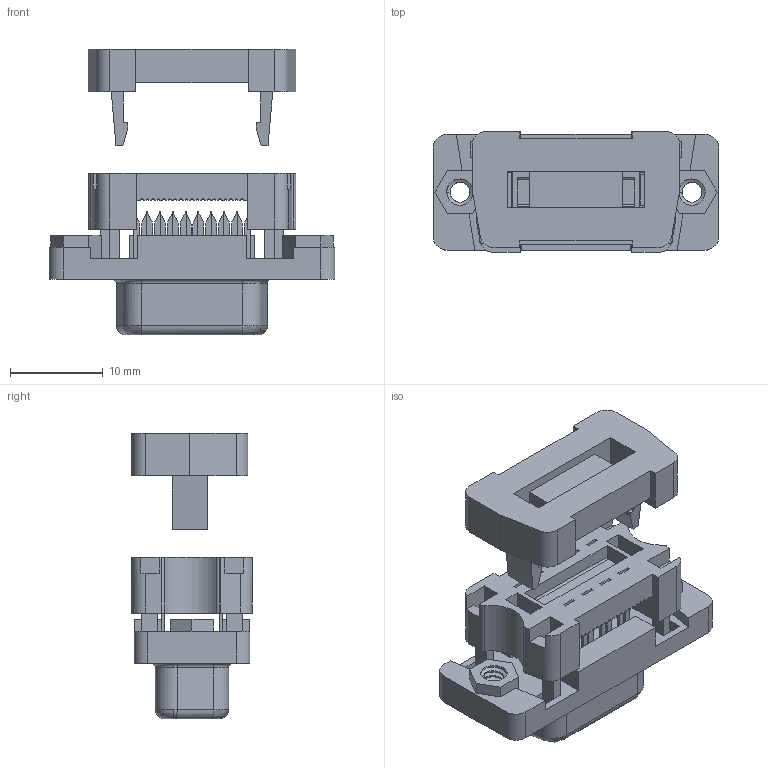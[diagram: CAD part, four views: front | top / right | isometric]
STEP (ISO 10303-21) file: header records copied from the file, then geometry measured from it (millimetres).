
FILE_DESCRIPTION (( 'STEP AP214' ), '1' );
FILE_NAME ('cni09f-x-i-x.step', '2024-02-05T21:35:17', ( '' ), ( '' ), 'SwSTEP 2.0', 'SolidWorks 2018', '' );
FILE_SCHEMA (( 'AUTOMOTIVE_DESIGN' ));
Length unit declared in the file: inch
Products named in the file (1): cni09f-x-i-x
Bounding box: 30.8 x 13 x 30.8 mm (x, y, z)
Volume: 3611.7 mm3; surface area: 4461.7 mm2
Topology: 16 solids, 16 shells, 608 faces, 1679 edges, 1102 vertices
Faces by surface type: plane 401, cylinder 172, cone 18, bspline 17
Entity records: 31016 total; most frequent: CARTESIAN_POINT 7456, ORIENTED_EDGE 3358, DIRECTION 3088, EDGE_CURVE 1679, LINE 1258, VECTOR 1258, VERTEX_POINT 1102, AXIS2_PLACEMENT_3D 915
